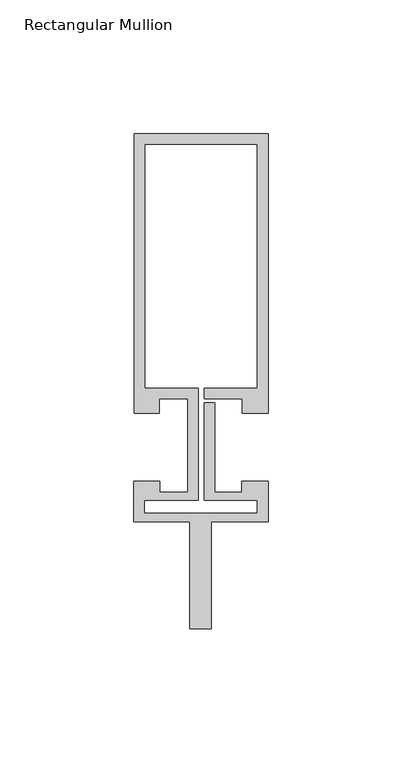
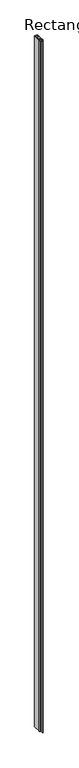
"""IFC4 building model written with IfcOpenShell, lengths in millimetres: member geometry, Rectangular Mullion : Reynaers_CW-50_Transom-Transom_104.5mm_Facecap-06B."""

import ifcopenshell
import ifcopenshell.guid

model = None  # the IFC model being written
_history = None  # IfcOwnerHistory: only IFC2X3 demands one
_inside = {}  # id of a spatial element -> (the spatial element, [elements in it])
_under = {}  # id of a project, library or spatial element -> (it, [spatial elements below it])
_declared = {}  # id of a project -> (the project, [libraries it declares])
_typed = {}  # id of a type object -> (the type object, [elements of that type])
_made_of = {}  # id of a material, layer set ... -> (it, [elements and type objects made of it])


def new_model(schema):
    """Start an empty IFC model of exactly this schema.

    Asked for "IFC4X3", IfcOpenShell would pick the latest addendum, in which some entities
    have other attributes; the version numbers below select the first issue.
    IFC2X3 requires an IfcOwnerHistory on every rooted entity: one is made here for all.
    """
    global model, _history
    if schema == "IFC4X3":
        model = ifcopenshell.file(schema_version=(4, 3, 0, 0))
    else:
        model = ifcopenshell.file(schema=schema)
    _inside.clear()
    _under.clear()
    _declared.clear()
    _typed.clear()
    _made_of.clear()
    _history = None
    if model.schema == "IFC2X3":
        org = make("IfcOrganization", Name="unknown")
        user = make(
            "IfcPersonAndOrganization",
            ThePerson=make("IfcPerson", FamilyName="unknown"),
            TheOrganization=org,
        )
        app = make(
            "IfcApplication",
            ApplicationDeveloper=org,
            Version="unknown",
            ApplicationFullName="unknown",
            ApplicationIdentifier="unknown",
        )
        _history = make(
            "IfcOwnerHistory",
            OwningUser=user,
            OwningApplication=app,
            ChangeAction="ADDED",
            CreationDate=0,
        )
    return model


def make(cls, **values):
    """One entity of the class cls with the attributes given. An attribute that is None is left unset."""
    return model.create_entity(
        cls, **{name: value for name, value in values.items() if value is not None}
    )


def rooted(cls, **values):
    """An entity with a GlobalId (a new one), such as an element, a storey or a relation."""
    return make(cls, GlobalId=ifcopenshell.guid.new(), OwnerHistory=_history, **values)


def si_unit(unit_type, name, prefix=None):
    """IfcSIUnit, for example si_unit("LENGTHUNIT", "METRE", prefix="MILLI")."""
    return make("IfcSIUnit", UnitType=unit_type, Prefix=prefix, Name=name)


def assignment(units):
    """IfcUnitAssignment: the units of a project."""
    return None if units is None else make("IfcUnitAssignment", Units=units)


def point(xyz):
    """IfcCartesianPoint."""
    return None if xyz is None else make("IfcCartesianPoint", Coordinates=xyz)


def direction(xyz):
    """IfcDirection."""
    return None if xyz is None else make("IfcDirection", DirectionRatios=xyz)


def frame(location, z_axis=None, x_axis=None):
    """IfcAxis2Placement3D, a coordinate frame: its origin and axes. An axis left out is left unset."""
    return make(
        "IfcAxis2Placement3D",
        Location=point(location),
        Axis=direction(z_axis),
        RefDirection=direction(x_axis),
    )


def origin():
    """The frame at (0, 0, 0) with its axes left unset."""
    return frame((0.0, 0.0, 0.0))


def place(relative_to, where):
    """IfcLocalPlacement: puts the frame where relative to a parent placement (None: the world)."""
    return make(
        "IfcLocalPlacement", PlacementRelTo=relative_to, RelativePlacement=where
    )


def context(
    kind, dimensions, precision=None, world=None, true_north=None, identifier=None
):
    """IfcGeometricRepresentationContext, for example the 3D "Model" context."""
    return make(
        "IfcGeometricRepresentationContext",
        ContextIdentifier=identifier,
        ContextType=kind,
        CoordinateSpaceDimension=dimensions,
        Precision=precision,
        WorldCoordinateSystem=world,
        TrueNorth=true_north,
    )


def project(units=None, contexts=None):
    """IfcProject with its units and contexts."""
    return rooted(
        "IfcProject",
        Name="project",
        RepresentationContexts=contexts,
        UnitsInContext=assignment(units),
    )


def spatial(cls, under=None, at=None, **own):
    """A site, building, storey or space (cls), placed at a placement, below another one or the project."""
    s = rooted(cls, ObjectPlacement=at, **own)
    if under is not None:
        _under.setdefault(under.id(), (under, []))[1].append(s)
    return s


def polyline(points):
    """IfcPolyline through the points."""
    return make("IfcPolyline", Points=[point(p) for p in points])


def outline(outer, holes=None, kind="AREA"):
    """IfcArbitraryClosedProfileDef: a profile drawn as a closed curve; with holes, ...WithVoids."""
    if holes is None:
        return make("IfcArbitraryClosedProfileDef", ProfileType=kind, OuterCurve=outer)
    return make(
        "IfcArbitraryProfileDefWithVoids",
        ProfileType=kind,
        OuterCurve=outer,
        InnerCurves=holes,
    )


def extrude(swept, where, along, depth):
    """IfcExtrudedAreaSolid: the profile swept, set in the frame where, extruded along a direction by depth."""
    return make(
        "IfcExtrudedAreaSolid",
        SweptArea=swept,
        Position=where,
        ExtrudedDirection=direction(along),
        Depth=depth,
    )


def shape(context_of_items, identifier, shape_type, items):
    """IfcShapeRepresentation: the items that make up one representation, for example the "Body"."""
    return make(
        "IfcShapeRepresentation",
        ContextOfItems=context_of_items,
        RepresentationIdentifier=identifier,
        RepresentationType=shape_type,
        Items=items,
    )


def source(mapping_origin, context_of_items, identifier, shape_type, items):
    """IfcRepresentationMap: a shape defined once, which mapped items show again and again."""
    return make(
        "IfcRepresentationMap",
        MappingOrigin=mapping_origin,
        MappedRepresentation=shape(context_of_items, identifier, shape_type, items),
    )


def transform(
    local_origin,
    x_axis=None,
    y_axis=None,
    z_axis=None,
    scale=None,
    scale2=None,
    scale3=None,
    uniform=True,
):
    """IfcCartesianTransformationOperator3D, or its non-uniform kind. x_axis, y_axis, z_axis: its Axis1, 2, 3."""
    if uniform:
        return make(
            "IfcCartesianTransformationOperator3D",
            Axis1=direction(x_axis),
            Axis2=direction(y_axis),
            LocalOrigin=point(local_origin),
            Scale=scale,
            Axis3=direction(z_axis),
        )
    return make(
        "IfcCartesianTransformationOperator3DnonUniform",
        Axis1=direction(x_axis),
        Axis2=direction(y_axis),
        LocalOrigin=point(local_origin),
        Scale=scale,
        Axis3=direction(z_axis),
        Scale2=scale2,
        Scale3=scale3,
    )


def mapped(mapping_source, mapping_target):
    """IfcMappedItem: shows the shape of a source again, moved by a transform."""
    return make(
        "IfcMappedItem", MappingSource=mapping_source, MappingTarget=mapping_target
    )


def made_of(thing, what):
    """Note that an element or type object is made of a material, layer set ...; save() writes the relation."""
    if what is not None:
        _made_of.setdefault(what.id(), (what, []))[1].append(thing)
    return thing


def element(
    cls,
    number,
    at=None,
    inside=None,
    cuts=None,
    type_object=None,
    material=None,
    context=None,
    identifier="Body",
    shape_type=None,
    held_by="IfcProductDefinitionShape",
    body=None,
    shapes=None,
    **own,
):
    """One element of the class cls, such as IfcWall. Its Tag is "e" and its number.

    at: its placement. inside: the storey or other place that contains it. cuts: it is an
    opening in that element (IfcRelVoidsElement). A single representation is given by context,
    identifier, shape_type and body (its items); several are given by shapes. held_by: the class
    of the entity that holds the representations. save() writes the other relations.
    """
    e = rooted(cls, Tag="e%d" % number, ObjectPlacement=at, **own)
    if body is not None:
        shapes = [shape(context, identifier, shape_type, body)]
    if shapes is not None:
        e.Representation = make(held_by, Representations=shapes)
    if inside is not None:
        _inside.setdefault(inside.id(), (inside, []))[1].append(e)
    if cuts is not None:
        rooted(
            "IfcRelVoidsElement", RelatingBuildingElement=cuts, RelatedOpeningElement=e
        )
    if type_object is not None:
        _typed.setdefault(type_object.id(), (type_object, []))[1].append(e)
    return made_of(e, material)


def aggregate(whole, parts):
    """IfcRelAggregates: a whole, such as a stair, and the parts it consists of."""
    return rooted("IfcRelAggregates", RelatingObject=whole, RelatedObjects=parts)


def save(model, path):
    """Write the relations noted so far, then the file.

    IfcRelAggregates (storeys below a building ...), IfcRelContainedInSpatialStructure (elements
    in a storey), IfcRelDefinesByType, IfcRelAssociatesMaterial and IfcRelDeclares: one each for
    every whole, place, type object, material and project.
    """
    for whole, parts in _under.values():
        aggregate(whole, parts)
    for where, things in _inside.values():
        rooted(
            "IfcRelContainedInSpatialStructure",
            RelatedElements=things,
            RelatingStructure=where,
        )
    for kind, things in _typed.values():
        rooted("IfcRelDefinesByType", RelatedObjects=things, RelatingType=kind)
    for what, things in _made_of.values():
        rooted("IfcRelAssociatesMaterial", RelatedObjects=things, RelatingMaterial=what)
    for by, libraries in _declared.values():
        rooted("IfcRelDeclares", RelatingContext=by, RelatedDefinitions=libraries)
    model.write(path)


def rectangular_mullion_db2c93b4(model_context):
    return source(origin(), model_context, "Body", "SweptSolid", [
        extrude(outline(polyline([(25.1995941, 12.7331291), (15.499, 12.7331291), (15.499, 18.1331291), (1.2995941, 18.1331291), (1.2995941, 22.1331291), (21.1995941, 22.1331291), (21.1995941, 113.2331291), (-20.8004059, 113.2331291), (-20.8004059, 22.1331291), (-0.9004059, 22.1331291), (-0.9004059, -19.7331291), (-20.994845, -19.7331291), (-20.994845, -24.6522629), (21.1995941, -24.6522629), (21.1995941, -19.7331291), (1.2995941, -19.7331291), (1.2995941, 16.7615089), (5.2995941, 16.7615089), (5.2995941, -16.7331291), (15.2996495, -16.7331291), (15.2996495, -12.7331291), (25.1995941, -12.7331291), (25.1995941, -27.7331291), (4.004855, -27.7331291), (4.004855, -67.7331291), (-3.995145, -67.7331291), (-3.995145, -27.7331291), (-24.994845, -27.7331291), (-24.994845, -12.7331291), (-15.2996495, -12.7331291), (-15.2996495, -16.7331291), (-4.9004059, -16.7331291), (-4.9004059, 18.1331291), (-15.499, 18.1331291), (-15.499, 12.7331291), (-24.8004059, 12.7331291), (-24.8004059, 117.2331291), (25.1995941, 117.2331291), (25.1995941, 12.7331291)])), frame((0.0, 0.0, -12000.0), z_axis=(0.0, 0.0, 1.0), x_axis=(1.0, 0.0, 0.0)), (0.0, 0.0, 1.0), 12000.0),
    ])


if __name__ == "__main__":
    model = new_model("IFC4")
    model_context = context("Model", 3, world=origin())
    ifc_project = project(units=[si_unit("LENGTHUNIT", "METRE", prefix="MILLI")], contexts=[model_context])
    site = spatial("IfcSite", under=ifc_project)
    building = spatial("IfcBuilding", under=site)
    placement = place(None, origin())
    rectangular_mullion_shape = rectangular_mullion_db2c93b4(model_context)
    element("IfcMember", 1, ObjectType="Rectangular Mullion : Reynaers_CW-50_Transom-Transom_104.5mm_Facecap-06B", at=placement, inside=building, context=model_context, shape_type="MappedRepresentation", body=[
        mapped(rectangular_mullion_shape, transform((0.0, 0.0, 0.0), x_axis=(1.0, 0.0, 0.0), y_axis=(0.0, 1.0, 0.0), z_axis=(0.0, 0.0, 1.0))),
    ])
    save(model, "model.ifc")
